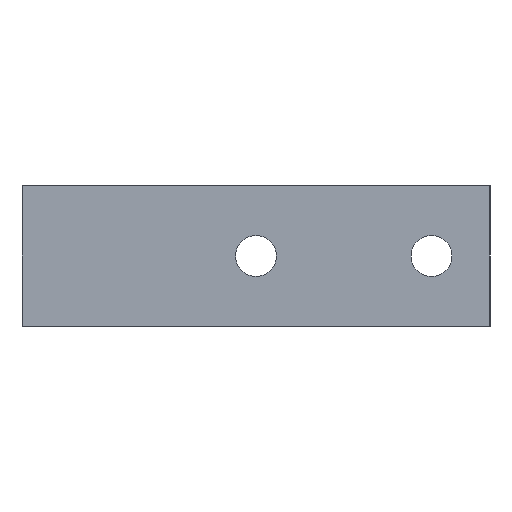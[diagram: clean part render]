
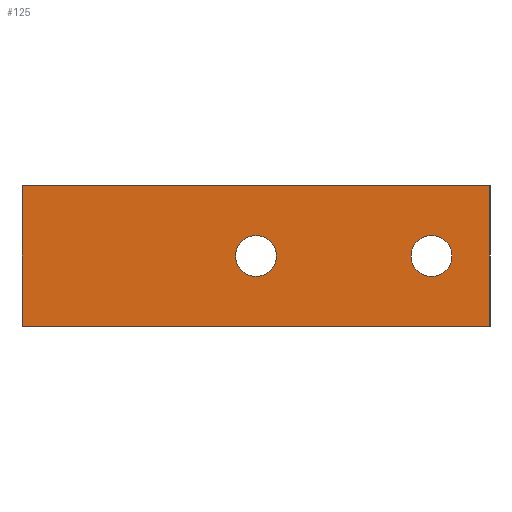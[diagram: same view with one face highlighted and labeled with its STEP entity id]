
A CAD part, left-side view. The second image highlights one B-rep face of the part: STEP entity #125.
In plain terms, the highlighted planar face has unit normal (-1, 0, 0).
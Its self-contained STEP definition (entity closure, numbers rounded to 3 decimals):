
#125=ADVANCED_FACE('',(#301,#303,#305),#307,.T.);
#301=FACE_BOUND('',#302,.T.);
#302=EDGE_LOOP('',(#457,#458,#459,#460));
#303=FACE_BOUND('',#304,.T.);
#304=EDGE_LOOP('',(#461));
#305=FACE_BOUND('',#306,.T.);
#306=EDGE_LOOP('',(#462));
#307=PLANE('',#308);
#308=AXIS2_PLACEMENT_3D('',#309,#310,#311);
#309=CARTESIAN_POINT('',(-278.,0.,0.));
#310=DIRECTION('',(-1.,0.,0.));
#311=DIRECTION('',(0.,-1.,0.));
#457=ORIENTED_EDGE('',*,*,#529,.T.);
#458=ORIENTED_EDGE('',*,*,#533,.T.);
#459=ORIENTED_EDGE('',*,*,#521,.F.);
#460=ORIENTED_EDGE('',*,*,#508,.F.);
#461=ORIENTED_EDGE('',*,*,#534,.T.);
#462=ORIENTED_EDGE('',*,*,#535,.T.);
#508=EDGE_CURVE('',#558,#560,#561,.T.);
#521=EDGE_CURVE('',#560,#583,#584,.T.);
#529=EDGE_CURVE('',#558,#595,#597,.T.);
#533=EDGE_CURVE('',#595,#583,#603,.T.);
#534=EDGE_CURVE('',#604,#604,#605,.F.);
#535=EDGE_CURVE('',#606,#606,#607,.F.);
#558=VERTEX_POINT('',#650);
#560=VERTEX_POINT('',#654);
#561=LINE('',#655,#656);
#583=VERTEX_POINT('',#709);
#584=LINE('',#710,#711);
#595=VERTEX_POINT('',#737);
#597=LINE('',#741,#742);
#603=LINE('',#755,#756);
#604=VERTEX_POINT('',#758);
#605=CIRCLE('',#759,3.5);
#606=VERTEX_POINT('',#763);
#607=CIRCLE('',#764,3.5);
#650=CARTESIAN_POINT('',(-278.,0.,0.));
#654=CARTESIAN_POINT('',(-278.,0.,24.));
#655=CARTESIAN_POINT('',(-278.,0.,0.));
#656=VECTOR('',#657,1.);
#657=DIRECTION('',(0.,0.,1.));
#709=CARTESIAN_POINT('',(-278.,-80.,24.));
#710=CARTESIAN_POINT('',(-278.,0.,24.));
#711=VECTOR('',#712,1.);
#712=DIRECTION('',(0.,-1.,0.));
#737=CARTESIAN_POINT('',(-278.,-80.,0.));
#741=CARTESIAN_POINT('',(-278.,0.,0.));
#742=VECTOR('',#743,1.);
#743=DIRECTION('',(0.,-1.,0.));
#755=CARTESIAN_POINT('',(-278.,-80.,0.));
#756=VECTOR('',#757,1.);
#757=DIRECTION('',(0.,0.,1.));
#758=CARTESIAN_POINT('',(-278.,-73.5,12.));
#759=AXIS2_PLACEMENT_3D('',#760,#761,#762);
#760=CARTESIAN_POINT('',(-278.,-70.,12.));
#761=DIRECTION('',(-1.,0.,0.));
#762=DIRECTION('',(0.,-1.,0.));
#763=CARTESIAN_POINT('',(-278.,-43.5,12.));
#764=AXIS2_PLACEMENT_3D('',#765,#766,#767);
#765=CARTESIAN_POINT('',(-278.,-40.,12.));
#766=DIRECTION('',(-1.,0.,0.));
#767=DIRECTION('',(0.,-1.,0.));
